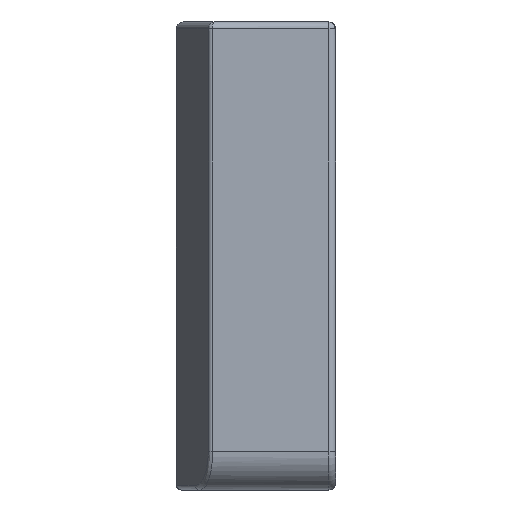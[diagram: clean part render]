
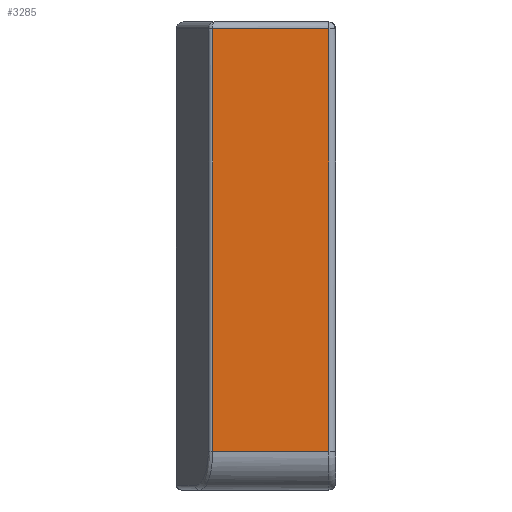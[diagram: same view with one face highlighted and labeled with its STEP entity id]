
A CAD part, front view. The second image highlights one B-rep face of the part: STEP entity #3285.
In plain terms, the highlighted planar face has unit normal (0, -1, 0).
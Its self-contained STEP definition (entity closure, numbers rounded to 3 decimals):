
#3258=AXIS2_PLACEMENT_3D('Plane Axis2P3D',#3255,#3256,#3257) ;
#906=CARTESIAN_POINT('Line Origine',(2376.16,-1075.929,667.617)) ;
#910=CARTESIAN_POINT('Vertex',(2536.86,-1075.929,667.617)) ;
#912=CARTESIAN_POINT('Vertex',(2450.594,-1075.929,667.617)) ;
#3255=CARTESIAN_POINT('Axis2P3D Location',(2376.16,-1075.929,687.617)) ;
#3260=CARTESIAN_POINT('Line Origine',(2493.727,-1075.929,981.117)) ;
#3264=CARTESIAN_POINT('Vertex',(2536.86,-1075.929,981.117)) ;
#3266=CARTESIAN_POINT('Vertex',(2450.594,-1075.929,981.117)) ;
#3269=CARTESIAN_POINT('Line Origine',(2450.594,-1075.929,824.367)) ;
#3274=CARTESIAN_POINT('Line Origine',(2536.86,-1075.929,824.367)) ;
#907=DIRECTION('Vector Direction',(-1.,0.,0.)) ;
#3256=DIRECTION('Axis2P3D Direction',(0.,1.,0.)) ;
#3257=DIRECTION('Axis2P3D XDirection',(1.,0.,0.)) ;
#3261=DIRECTION('Vector Direction',(1.,0.,0.)) ;
#3270=DIRECTION('Vector Direction',(0.,0.,-1.)) ;
#3275=DIRECTION('Vector Direction',(0.,0.,-1.)) ;
#908=VECTOR('Line Direction',#907,1.) ;
#3262=VECTOR('Line Direction',#3261,1.) ;
#3271=VECTOR('Line Direction',#3270,1.) ;
#3276=VECTOR('Line Direction',#3275,1.) ;
#3280=ORIENTED_EDGE('',*,*,#3268,.T.) ;
#3281=ORIENTED_EDGE('',*,*,#3273,.T.) ;
#3282=ORIENTED_EDGE('',*,*,#914,.F.) ;
#3283=ORIENTED_EDGE('',*,*,#3278,.F.) ;
#3285=ADVANCED_FACE('ASSY-20221017.1\\Bed Mattress-1017.1\\\X2\976080CC53D16CE1\X0\',(#3284),#3259,.F.) ;
#914=EDGE_CURVE('',#911,#913,#909,.T.) ;
#3268=EDGE_CURVE('',#3265,#3267,#3263,.F.) ;
#3273=EDGE_CURVE('',#3267,#913,#3272,.T.) ;
#3278=EDGE_CURVE('',#3265,#911,#3277,.T.) ;
#3279=EDGE_LOOP('',(#3280,#3281,#3282,#3283)) ;
#3284=FACE_OUTER_BOUND('',#3279,.T.) ;
#909=LINE('Line',#906,#908) ;
#3263=LINE('Line',#3260,#3262) ;
#3272=LINE('Line',#3269,#3271) ;
#3277=LINE('Line',#3274,#3276) ;
#3259=PLANE('Plane',#3258) ;
#911=VERTEX_POINT('',#910) ;
#913=VERTEX_POINT('',#912) ;
#3265=VERTEX_POINT('',#3264) ;
#3267=VERTEX_POINT('',#3266) ;
